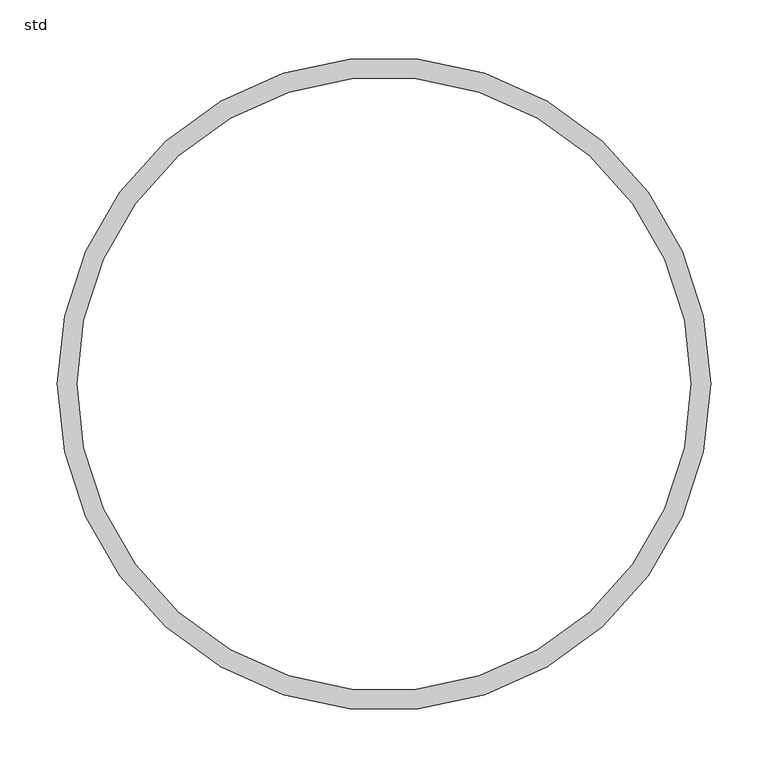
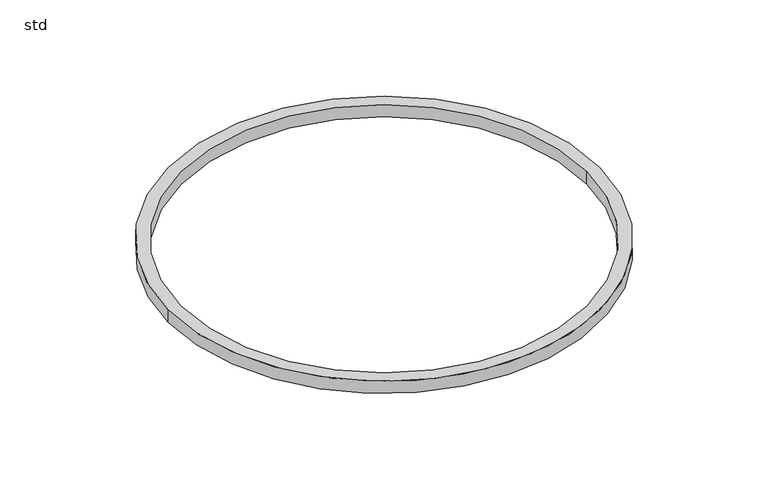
"""IFC4 building model written with IfcOpenShell, lengths in millimetres: pipe fitting geometry, NLRS_52_PIF_WPB_Ultra Kyma dichtingsring SH_Dyka : std."""

from ifc_helpers import new_model, si_unit, point, origin, origin_with_axes, origin_2d, place, context, project, spatial, circle_curve, trimmed, segment, composite_curve, outline, extrude, source, transform, mapped, element, save


def std_cf29b31f(model_context):
    return source(origin(), model_context, "Body", "SweptSolid", [
        extrude(outline(composite_curve([segment(trimmed(circle_curve(origin_2d(), 284.0), [point((-284.0, 0.0))], [point((284.0, 0.0))], False, "CARTESIAN"), True, "CONTINUOUS"), segment(trimmed(circle_curve(origin_2d(), 284.0), [point((284.0, 0.0))], [point((-284.0, 0.0))], False, "CARTESIAN"), True, "CONTINUOUS")], self_intersect=False), holes=[composite_curve([segment(trimmed(circle_curve(origin_2d(), 267.0), [point((267.0, 0.0))], [point((-267.0, 0.0))], True, "CARTESIAN"), True, "CONTINUOUS"), segment(trimmed(circle_curve(origin_2d(), 267.0), [point((-267.0, 0.0))], [point((267.0, 0.0))], True, "CARTESIAN"), True, "CONTINUOUS")], self_intersect=False)]), origin_with_axes(), (0.0, 0.0, 1.0), 17.0),
    ])


if __name__ == "__main__":
    model = new_model("IFC4")
    model_context = context("Model", 3, world=origin())
    ifc_project = project(units=[si_unit("LENGTHUNIT", "METRE", prefix="MILLI")], contexts=[model_context])
    site = spatial("IfcSite", under=ifc_project)
    building = spatial("IfcBuilding", under=site)
    placement = place(None, origin())
    std_shape = std_cf29b31f(model_context)
    element("IfcPipeFitting", 1, ObjectType="NLRS_52_PIF_WPB_Ultra Kyma dichtingsring SH_Dyka : std", at=placement, inside=building, context=model_context, shape_type="MappedRepresentation", body=[
        mapped(std_shape, transform((0.0, 0.0, 0.0), x_axis=(1.0, 0.0, 0.0), y_axis=(0.0, 1.0, 0.0), z_axis=(0.0, 0.0, 1.0))),
    ])
    save(model, "model.ifc")
